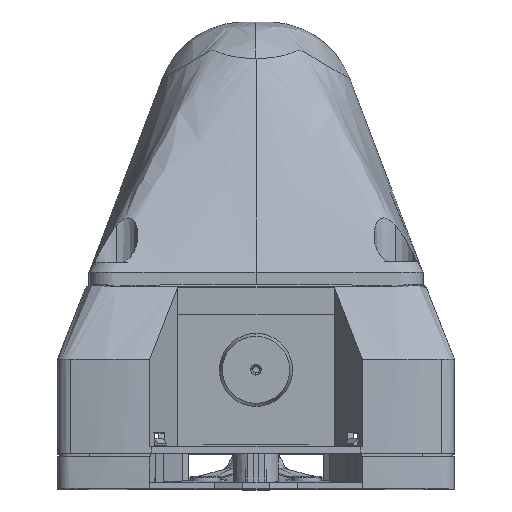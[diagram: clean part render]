
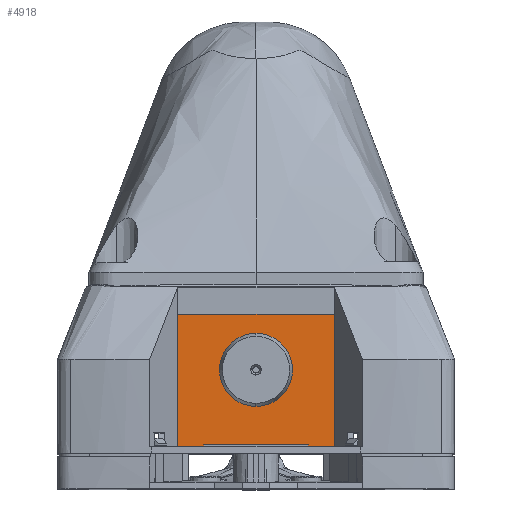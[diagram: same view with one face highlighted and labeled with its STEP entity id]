
A CAD part, top view. The second image highlights one B-rep face of the part: STEP entity #4918.
In plain terms, the highlighted planar face has unit normal (0, 0, 1).
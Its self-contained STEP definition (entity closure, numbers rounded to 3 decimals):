
#1152 = CARTESIAN_POINT ( 'NONE',  ( -22.497, -47.997, 67. ) ) ;
#1384 = CARTESIAN_POINT ( 'NONE',  ( 22.497, -10.003, 67. ) ) ;
#1389 = CARTESIAN_POINT ( 'NONE',  ( -22.497, -10.003, 67. ) ) ;
#1392 = CARTESIAN_POINT ( 'NONE',  ( 15., -47.5, 67. ) ) ;
#1436 = CARTESIAN_POINT ( 'NONE',  ( -15., -47.997, 67. ) ) ;
#1441 = CARTESIAN_POINT ( 'NONE',  ( 22.497, -47.997, 67. ) ) ;
#1616 = CARTESIAN_POINT ( 'NONE',  ( 10.497, -26., 67. ) ) ;
#1617 = CARTESIAN_POINT ( 'NONE',  ( -10.497, -26., 67. ) ) ;
#1864 = CARTESIAN_POINT ( 'NONE',  ( 15., -47.997, 67. ) ) ;
#1865 = CARTESIAN_POINT ( 'NONE',  ( -15., -47.5, 67. ) ) ;
#4918 = ADVANCED_FACE ( 'NONE', ( #21652, #21665 ), #23659, .T. ) ;
#6961 = EDGE_CURVE ( 'NONE', #42098, #42099, #53072, .T. ) ;
#6978 = EDGE_CURVE ( 'NONE', #41833, #41840, #53101, .T. ) ;
#6981 = EDGE_CURVE ( 'NONE', #41920, #41833, #53105, .T. ) ;
#6995 = EDGE_CURVE ( 'NONE', #41840, #41353, #53130, .T. ) ;
#7388 = EDGE_CURVE ( 'NONE', #42099, #42098, #53546, .T. ) ;
#7402 = EDGE_CURVE ( 'NONE', #42347, #41915, #53571, .T. ) ;
#7407 = EDGE_CURVE ( 'NONE', #41896, #42346, #53589, .T. ) ;
#7411 = EDGE_CURVE ( 'NONE', #41896, #42347, #53599, .T. ) ;
#7423 = EDGE_CURVE ( 'NONE', #42346, #41920, #53638, .T. ) ;
#7425 = EDGE_CURVE ( 'NONE', #41353, #41915, #53647, .T. ) ;
#11657 = AXIS2_PLACEMENT_3D ( 'NONE', #23666, #23667, #23668 ) ;
#14370 = AXIS2_PLACEMENT_3D ( 'NONE', #55371, #55372, #55373 ) ;
#21652 = FACE_BOUND ( 'NONE', #33469, .T. ) ;
#21665 = FACE_OUTER_BOUND ( 'NONE', #33475, .T. ) ;
#23659 = PLANE ( 'NONE',  #11657 ) ;
#23666 = CARTESIAN_POINT ( 'NONE',  ( 0., 0., 67. ) ) ;
#23667 = DIRECTION ( 'NONE',  ( 0., 0., 1. ) ) ;
#23668 = DIRECTION ( 'NONE',  ( 1., 0., 0. ) ) ;
#33469 = EDGE_LOOP ( 'NONE', ( #62067, #62054 ) ) ;
#33475 = EDGE_LOOP ( 'NONE', ( #62077, #62074, #61990, #62029, #62026, #62010, #61944, #61937 ) ) ;
#41353 = VERTEX_POINT ( 'NONE', #1152 ) ;
#41833 = VERTEX_POINT ( 'NONE', #1384 ) ;
#41840 = VERTEX_POINT ( 'NONE', #1389 ) ;
#41896 = VERTEX_POINT ( 'NONE', #1392 ) ;
#41915 = VERTEX_POINT ( 'NONE', #1436 ) ;
#41920 = VERTEX_POINT ( 'NONE', #1441 ) ;
#42098 = VERTEX_POINT ( 'NONE', #1616 ) ;
#42099 = VERTEX_POINT ( 'NONE', #1617 ) ;
#42346 = VERTEX_POINT ( 'NONE', #1864 ) ;
#42347 = VERTEX_POINT ( 'NONE', #1865 ) ;
#53072 = CIRCLE ( 'NONE', #14370, 10.497 ) ;
#53101 = LINE ( 'NONE', #55394, #53107 ) ;
#53105 = LINE ( 'NONE', #55392, #53116 ) ;
#53107 = VECTOR ( 'NONE', #55396, 1000. ) ;
#53116 = VECTOR ( 'NONE', #55399, 1000. ) ;
#53130 = LINE ( 'NONE', #55416, #53139 ) ;
#53139 = VECTOR ( 'NONE', #55417, 1000. ) ;
#53546 = CIRCLE ( 'NONE', #56908, 10.497 ) ;
#53571 = LINE ( 'NONE', #56294, #53578 ) ;
#53578 = VECTOR ( 'NONE', #56295, 1000. ) ;
#53589 = LINE ( 'NONE', #56298, #53593 ) ;
#53593 = VECTOR ( 'NONE', #56299, 1000. ) ;
#53599 = LINE ( 'NONE', #56303, #53604 ) ;
#53604 = VECTOR ( 'NONE', #56304, 1000. ) ;
#53638 = LINE ( 'NONE', #56355, #53645 ) ;
#53645 = VECTOR ( 'NONE', #56356, 1000. ) ;
#53647 = LINE ( 'NONE', #56350, #53651 ) ;
#53651 = VECTOR ( 'NONE', #56351, 1000. ) ;
#55371 = CARTESIAN_POINT ( 'NONE',  ( 0., -26., 67. ) ) ;
#55372 = DIRECTION ( 'NONE',  ( 0., 0., 1. ) ) ;
#55373 = DIRECTION ( 'NONE',  ( 1., 0., 0. ) ) ;
#55392 = CARTESIAN_POINT ( 'NONE',  ( 22.497, 0., 67. ) ) ;
#55394 = CARTESIAN_POINT ( 'NONE',  ( 0., -10.003, 67. ) ) ;
#55396 = DIRECTION ( 'NONE',  ( -1., 0., 0. ) ) ;
#55399 = DIRECTION ( 'NONE',  ( 0., 1., 0. ) ) ;
#55416 = CARTESIAN_POINT ( 'NONE',  ( -22.497, 0., 67. ) ) ;
#55417 = DIRECTION ( 'NONE',  ( 0., -1., 0. ) ) ;
#56268 = CARTESIAN_POINT ( 'NONE',  ( 0., -26., 67. ) ) ;
#56269 = DIRECTION ( 'NONE',  ( 0., 0., 1. ) ) ;
#56270 = DIRECTION ( 'NONE',  ( 1., 0., 0. ) ) ;
#56294 = CARTESIAN_POINT ( 'NONE',  ( -15., -47.5, 67. ) ) ;
#56295 = DIRECTION ( 'NONE',  ( 0., -1., 0. ) ) ;
#56298 = CARTESIAN_POINT ( 'NONE',  ( 15., -47.5, 67. ) ) ;
#56299 = DIRECTION ( 'NONE',  ( 0., -1., 0. ) ) ;
#56303 = CARTESIAN_POINT ( 'NONE',  ( -15., -47.5, 67. ) ) ;
#56304 = DIRECTION ( 'NONE',  ( -1., 0., 0. ) ) ;
#56350 = CARTESIAN_POINT ( 'NONE',  ( 0., -47.997, 67. ) ) ;
#56351 = DIRECTION ( 'NONE',  ( 1., 0., 0. ) ) ;
#56355 = CARTESIAN_POINT ( 'NONE',  ( 0., -47.997, 67. ) ) ;
#56356 = DIRECTION ( 'NONE',  ( 1., 0., 0. ) ) ;
#56908 = AXIS2_PLACEMENT_3D ( 'NONE', #56268, #56269, #56270 ) ;
#61937 = ORIENTED_EDGE ( 'NONE', *, *, #6995, .T. ) ;
#61944 = ORIENTED_EDGE ( 'NONE', *, *, #6978, .T. ) ;
#61990 = ORIENTED_EDGE ( 'NONE', *, *, #7411, .F. ) ;
#62010 = ORIENTED_EDGE ( 'NONE', *, *, #6981, .T. ) ;
#62026 = ORIENTED_EDGE ( 'NONE', *, *, #7423, .T. ) ;
#62029 = ORIENTED_EDGE ( 'NONE', *, *, #7407, .T. ) ;
#62054 = ORIENTED_EDGE ( 'NONE', *, *, #6961, .F. ) ;
#62067 = ORIENTED_EDGE ( 'NONE', *, *, #7388, .F. ) ;
#62074 = ORIENTED_EDGE ( 'NONE', *, *, #7402, .F. ) ;
#62077 = ORIENTED_EDGE ( 'NONE', *, *, #7425, .T. ) ;
